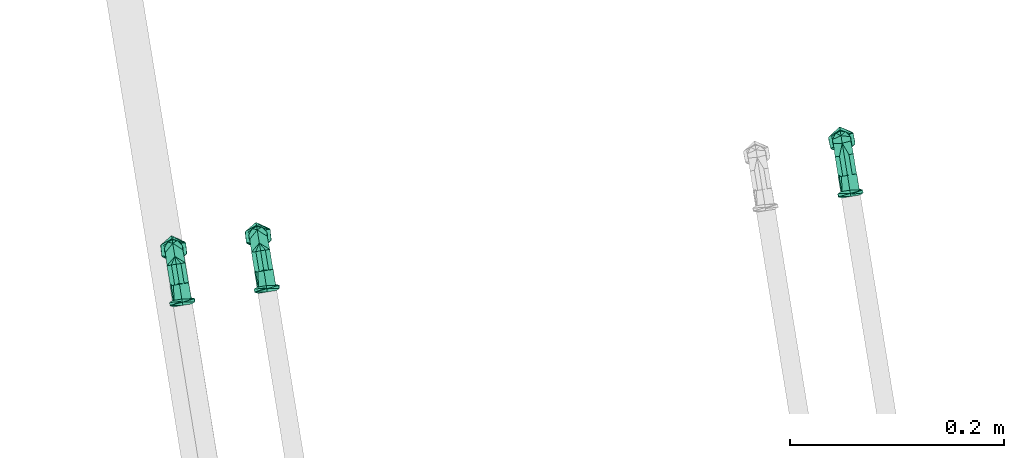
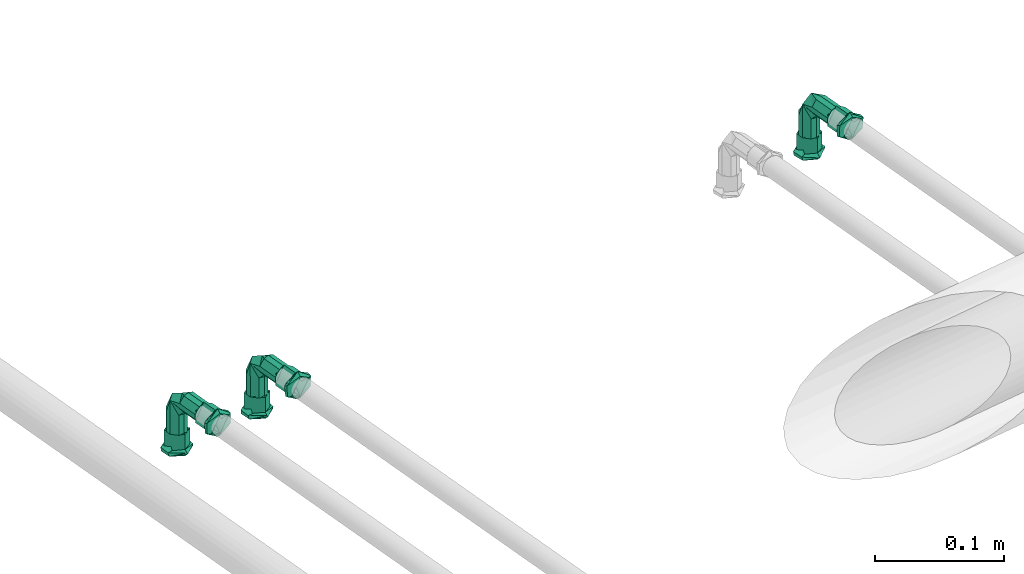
# One storey, part 47 of 56: 3 flow fittings.
"""IFC2X3 building model written with IfcOpenShell, lengths in millimetres."""

from ifc_helpers import new_model, entity, si_unit, converted_unit, derived_unit, direction, frame, origin, origin_with_axes, place, context, subcontext, project, spatial, faceted_brep, source, transform, mapped, material, material_list, type_object, element, save


model = new_model("IFC2X3")

# Units and contexts
model_context = context("Model", 3, precision=0.01, world=origin(), true_north=direction((6.12323399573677e-17, 1.0)))
plan_context = context("Plan", 3, precision=1e-05, world=origin_with_axes())
body_context = subcontext(model_context, "Body", "Model", "MODEL_VIEW")
ifc_project = project(units=[converted_unit("PLANEANGLEUNIT", "DEGREE", entity("IfcPositiveLengthMeasure", 0.0174532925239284), si_unit("PLANEANGLEUNIT", "RADIAN"), dimensions=[0, 0, 0, 0, 0, 0, 0]), si_unit("AREAUNIT", "SQUARE_METRE"), si_unit("LENGTHUNIT", "METRE", prefix="MILLI"), si_unit("MASSUNIT", "GRAM", prefix="KILO"), si_unit("POWERUNIT", "WATT"), si_unit("PRESSUREUNIT", "PASCAL", prefix="KILO"), si_unit("FORCEUNIT", "NEWTON", prefix="KILO"), si_unit("ELECTRICVOLTAGEUNIT", "VOLT"), si_unit("ELECTRICCURRENTUNIT", "AMPERE"), si_unit("THERMODYNAMICTEMPERATUREUNIT", "DEGREE_CELSIUS"), si_unit("TIMEUNIT", "SECOND"), si_unit("VOLUMEUNIT", "CUBIC_METRE"), derived_unit("LINEARVELOCITYUNIT", [(si_unit("LENGTHUNIT", "METRE"), 1), (si_unit("TIMEUNIT", "SECOND"), -1)]), derived_unit("VOLUMETRICFLOWRATEUNIT", [(si_unit("VOLUMEUNIT", "CUBIC_METRE"), 1), (si_unit("TIMEUNIT", "SECOND"), -1)]), derived_unit("THERMALTRANSMITTANCEUNIT", [(si_unit("POWERUNIT", "WATT"), 1), (si_unit("THERMODYNAMICTEMPERATUREUNIT", "KELVIN"), -1), (si_unit("AREAUNIT", "SQUARE_METRE"), -1)]), derived_unit("SOUNDPRESSUREUNIT", [(si_unit("PRESSUREUNIT", "PASCAL"), 1)])], contexts=[model_context, plan_context])

# Site, building, storey
site_placement = place(None, frame((-3.09682673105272e-06, 1.93776733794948e-05, 0.0), z_axis=(0.0, 0.0, 1.0), x_axis=(-0.160806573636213, 0.986985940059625, 0.0)))
site = spatial("IfcSite", under=ifc_project, at=site_placement, Name="Default", CompositionType="ELEMENT")
building_placement = place(site_placement, frame((0.0, 0.0, 0.0), z_axis=(0.0, 0.0, 1.0), x_axis=(1.0, -2.77555756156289e-17, 0.0)))
building = spatial("IfcBuilding", under=site, at=building_placement, Name="Bygning (endres i Project Information)", CompositionType="ELEMENT")
storey_placement = place(building_placement, frame((0.0, 0.0, 51360.0000000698), z_axis=(0.0, 0.0, 1.0), x_axis=(1.0, -2.77555756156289e-17, 0.0)))
storey = spatial("IfcBuildingStorey", under=building, at=storey_placement, Name="H01-Nivå D+0,36", CompositionType="ELEMENT", Elevation=51360.0000000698)

# Flow fittings
ifc_material_1 = material(Name="Geberit_Plastic_Red")
ifc_material_2 = material(Name="Geberit_Mapress_C-Steel")
ifc_material_list = material_list([ifc_material_1, ifc_material_2])
pipe_fitting_type_1 = type_object("IfcPipeFittingType", Name="PRO_103184:DN10-100 / d12-108 - OD", PredefinedType="BEND", material=ifc_material_list)
shared_shape_1 = source(origin(), body_context, "Body", "Brep", [
    faceted_brep([(-10.2000000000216, 47.0, 0.0), (-5.10000000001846, 53.0, -8.83345911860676), (-10.2000000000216, 53.0, 0.0), (-2.55000000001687, 47.0, -4.41672955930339), (5.09999999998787, 47.0, -8.83345911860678), (10.1999999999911, 47.0, 0.0), (10.1999999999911, 53.0, 0.0), (2.5499999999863, 53.0, -4.41672955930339), (5.09999999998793, 53.0, 8.83345911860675), (2.54999999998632, 47.0, 4.41672955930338), (-5.10000000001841, 47.0, 8.8334591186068), (-2.55000000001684, 53.0, 4.4167295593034), (-3.97333160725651, 51.6187415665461, -12.0896101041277), (-12.2979341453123, 50.9020658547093, 0.0), (6.17107195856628, 51.3356676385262, -11.312540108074), (5.11103080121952, 48.4277850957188, -11.6862297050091), (-5.17175491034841, 48.7468828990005, -11.8460073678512), (-11.7000000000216, 48.5, 0.0), (-13.2000000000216, 50.0, 0.0), (13.1999999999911, 50.0, 0.0), (11.6999999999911, 48.5, 0.0), (12.2979341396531, 50.9020658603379, 0.0), (3.97333159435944, 51.6187415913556, 12.0896100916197), (5.17175492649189, 48.7468829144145, 11.8460073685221), (-6.17107176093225, 51.3356676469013, 11.3125402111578), (-5.11103069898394, 48.4277850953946, 11.6862297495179)], [[[0, 1, 2]], [[1, 0, 3, 4]], [[5, 6, 4]], [[4, 6, 7, 1]], [[5, 8, 6]], [[8, 5, 9, 10]], [[0, 2, 10]], [[10, 2, 11, 8]], [[2, 12, 13]], [[12, 7, 14]], [[4, 15, 5]], [[16, 0, 17, 18]], [[15, 3, 16]], [[15, 14, 19]], [[19, 20, 5, 15]], [[12, 2, 1]], [[16, 18, 13]], [[15, 16, 12]], [[14, 6, 21, 19]], [[3, 0, 16]], [[15, 12, 14]], [[7, 6, 14]], [[3, 15, 4]], [[13, 12, 16]], [[7, 12, 1]], [[6, 22, 21]], [[9, 5, 23]], [[22, 11, 24]], [[23, 5, 20, 19]], [[25, 9, 23]], [[25, 24, 18]], [[18, 17, 0, 25]], [[25, 23, 22]], [[23, 19, 21]], [[25, 22, 24]], [[24, 2, 13, 18]], [[22, 6, 8]], [[10, 25, 0]], [[11, 2, 24]], [[9, 25, 10]], [[21, 22, 23]], [[11, 22, 8]]]),
    faceted_brep([(-9.0, 32.0, 0.0), (-4.5000000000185, 53.0, -7.79422863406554), (-9.0, 53.0, 0.0), (-2.25000000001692, 32.0, -3.89711431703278), (4.49999999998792, 32.0, -7.79422863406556), (9.0, 32.0, 0.0), (9.0, 53.0, 0.0), (4.499999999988, 53.0, 7.79422863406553), (2.24999999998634, 32.0, 3.89711431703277), (-4.50000000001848, 32.0, 7.79422863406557), (10.1999999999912, 53.0, 0.0), (-5.1000000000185, 53.0, -8.83345911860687), (5.09999999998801, 53.0, 8.83345911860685), (-10.2000000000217, 53.0, 0.0), (-5.10000000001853, 33.0, -8.83345911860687), (-10.2000000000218, 33.0, 0.0), (10.1999999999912, 33.0, 0.0), (2.54999999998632, 33.0, -4.41672955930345), (5.09999999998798, 33.0, 8.83345911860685), (-2.55000000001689, 33.0, 4.41672955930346)], [[[0, 1, 2]], [[1, 0, 3, 4]], [[5, 6, 4]], [[1, 4, 6]], [[5, 7, 6]], [[7, 5, 8, 9]], [[0, 2, 9]], [[7, 9, 2]], [[1, 6, 10]], [[11, 1, 10]], [[1, 11, 2]], [[6, 12, 10]], [[7, 12, 6]], [[2, 13, 7]], [[12, 7, 13]], [[13, 2, 11]], [[13, 11, 14, 15]], [[10, 16, 17, 14, 11]], [[10, 12, 18, 16]], [[13, 15, 19, 18, 12]], [[14, 3, 15]], [[3, 0, 15]], [[5, 4, 17]], [[3, 14, 4]], [[4, 14, 17]], [[16, 5, 17]], [[18, 8, 16]], [[8, 5, 16]], [[0, 9, 19]], [[8, 18, 9]], [[9, 18, 19]], [[15, 0, 19]]]),
    faceted_brep([(-47.0, -10.2000000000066, 0.0), (-53.0, -5.10000000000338, -8.83345911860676), (-53.0, -10.2000000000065, 0.0), (-47.0, -2.55000000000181, -4.41672955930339), (-47.0, 5.10000000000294, -8.83345911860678), (-47.0, 10.2000000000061, 0.0), (-53.0, 10.2000000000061, 0.0), (-53.0, 2.55000000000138, -4.41672955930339), (-53.0, 5.10000000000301, 8.83345911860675), (-47.0, 2.55000000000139, 4.41672955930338), (-47.0, -5.10000000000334, 8.8334591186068), (-53.0, -2.55000000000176, 4.4167295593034), (-51.6187415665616, -3.97333160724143, -12.0896101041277), (-50.9020658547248, -12.2979341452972, 0.0), (-51.3356676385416, 6.17107195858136, -11.312540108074), (-48.4277850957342, 5.11103080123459, -11.6862297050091), (-48.746882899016, -5.17175491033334, -11.8460073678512), (-48.5000000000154, -11.7000000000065, 0.0), (-50.0, -13.2000000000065, 0.0), (-50.0, 13.2000000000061, 0.0), (-48.5000000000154, 11.7000000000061, 0.0), (-50.9020658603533, 12.2979341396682, 0.0), (-51.618741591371, 3.97333159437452, 12.0896100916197), (-48.7468829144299, 5.17175492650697, 11.8460073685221), (-51.3356676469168, -6.17107176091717, 11.3125402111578), (-48.4277850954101, -5.11103069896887, 11.6862297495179)], [[[0, 1, 2]], [[1, 0, 3, 4]], [[5, 6, 4]], [[4, 6, 7, 1]], [[5, 8, 6]], [[8, 5, 9, 10]], [[0, 2, 10]], [[10, 2, 11, 8]], [[2, 12, 13]], [[12, 7, 14]], [[4, 15, 5]], [[16, 0, 17, 18]], [[15, 3, 16]], [[15, 14, 19]], [[19, 20, 5, 15]], [[12, 2, 1]], [[16, 18, 13]], [[15, 16, 12]], [[14, 6, 21, 19]], [[3, 0, 16]], [[15, 12, 14]], [[7, 6, 14]], [[3, 15, 4]], [[13, 12, 16]], [[7, 12, 1]], [[6, 22, 21]], [[9, 5, 23]], [[22, 11, 24]], [[23, 5, 20, 19]], [[25, 9, 23]], [[25, 24, 18]], [[18, 17, 0, 25]], [[25, 23, 22]], [[23, 19, 21]], [[25, 22, 24]], [[24, 2, 13, 18]], [[22, 6, 8]], [[10, 25, 0]], [[11, 2, 24]], [[9, 25, 10]], [[21, 22, 23]], [[11, 22, 8]]]),
    faceted_brep([(-32.0, -9.0, 0.0), (-53.0, -4.50000000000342, -7.79422863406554), (-53.0, -9.0, 0.0), (-32.0, -2.25000000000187, -3.89711431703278), (-32.0, 4.50000000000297, -7.79422863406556), (-32.0, 9.0, 0.0), (-53.0, 9.0, 0.0), (-53.0, 4.50000000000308, 7.79422863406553), (-32.0, 2.25000000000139, 3.89711431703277), (-32.0, -4.50000000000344, 7.79422863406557), (-53.0, 10.2000000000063, 0.0), (-53.0, -5.10000000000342, -8.83345911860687), (-53.0, 5.10000000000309, 8.83345911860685), (-53.0, -10.2000000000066, 0.0), (-33.0, -5.10000000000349, -8.83345911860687), (-33.0, -10.2000000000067, 0.0), (-33.0, 10.2000000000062, 0.0), (-33.0, 2.55000000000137, -4.41672955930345), (-33.0, 5.10000000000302, 8.83345911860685), (-33.0, -2.55000000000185, 4.41672955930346)], [[[0, 1, 2]], [[1, 0, 3, 4]], [[5, 6, 4]], [[1, 4, 6]], [[5, 7, 6]], [[7, 5, 8, 9]], [[0, 2, 9]], [[7, 9, 2]], [[1, 6, 10]], [[11, 1, 10]], [[1, 11, 2]], [[6, 12, 10]], [[7, 12, 6]], [[2, 13, 7]], [[12, 7, 13]], [[13, 2, 11]], [[13, 11, 14, 15]], [[10, 16, 17, 14, 11]], [[10, 12, 18, 16]], [[13, 15, 19, 18, 12]], [[14, 3, 15]], [[3, 0, 15]], [[5, 4, 17]], [[3, 14, 4]], [[4, 14, 17]], [[16, 5, 17]], [[18, 8, 16]], [[8, 5, 16]], [[0, 9, 19]], [[8, 18, 9]], [[9, 18, 19]], [[15, 0, 19]]]),
    faceted_brep([(-33.0, -9.0, 0.0), (-33.0, -7.79422863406, 4.49999999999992), (-33.0, -2.32937140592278, 8.69333243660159), (-33.0, 2.32937140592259, 8.69333243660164), (-33.0, 7.79422863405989, 4.50000000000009), (-33.0, 9.0, 0.0), (-33.0, 7.79422863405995, -4.5), (-33.0, 2.3293714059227, -8.69333243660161), (-33.0, -2.32937140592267, -8.69333243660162), (-33.0, -7.79422863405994, -4.50000000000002), (-14.0, -9.0, 0.0), (-14.0, -7.79422863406, 4.49999999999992), (-14.0, -2.32937140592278, 8.69333243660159), (-14.0, 2.32937140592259, 8.69333243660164), (2.32937140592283, 33.0, 8.69333243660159), (-2.32937140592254, 33.0, 8.69333243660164), (-2.32937140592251, 14.0, 8.69333243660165), (2.32937140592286, 14.0, 8.69333243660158), (-14.0, 7.79422863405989, 4.50000000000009), (-14.0, 9.0, 0.0), (-14.0, 7.79422863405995, -4.5), (-14.0, 2.3293714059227, -8.69333243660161), (-14.0, -2.32937140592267, -8.69333243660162), (-2.32937140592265, 33.0, -8.69333243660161), (2.32937140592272, 33.0, -8.69333243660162), (2.32937140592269, 14.0, -8.69333243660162), (-2.32937140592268, 14.0, -8.69333243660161), (-14.0, -7.79422863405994, -4.50000000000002), (-6.55705968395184, -4.70281640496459, 0.0), (-1.6301655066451, 1.63016464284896, 8.29426552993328), (-10.4644660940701, 10.4644660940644, 0.0), (-7.79422863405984, 14.0, 4.50000000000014), (5.91858428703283, 2.49999999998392, 0.0), (9.0, 14.0, 0.0), (7.79422863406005, 14.0, 4.49999999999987), (-9.0, 14.0, 0.0), (-1.63016501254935, 1.63016417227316, -8.29426524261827), (-7.79422863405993, 14.0, -4.49999999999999), (7.79422863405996, 14.0, -4.50000000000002), (-7.7942286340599, 33.0, -4.5), (-9.0, 33.0, 0.0), (-7.79422863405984, 33.0, 4.50000000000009), (7.79422863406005, 33.0, 4.49999999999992), (9.0, 33.0, 0.0), (7.79422863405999, 33.0, -4.50000000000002)], [[[0, 1, 2, 3, 4, 5, 6, 7, 8, 9]], [[0, 10, 11, 1]], [[1, 11, 12, 2]], [[12, 13, 3, 2]], [[14, 15, 16, 17]], [[3, 13, 18, 4]], [[4, 18, 19, 5]], [[5, 19, 20, 6]], [[6, 20, 21, 7]], [[21, 22, 8, 7]], [[23, 24, 25, 26]], [[8, 22, 27, 9]], [[9, 27, 10, 0]], [[12, 11, 28]], [[13, 12, 29]], [[11, 10, 28]], [[30, 18, 31]], [[30, 19, 18]], [[18, 13, 29]], [[32, 17, 29]], [[32, 29, 28]], [[32, 33, 34]], [[28, 29, 12]], [[32, 34, 17]], [[30, 31, 35]], [[29, 31, 18]], [[29, 16, 31]], [[16, 29, 17]], [[20, 19, 30]], [[25, 32, 36]], [[37, 36, 20]], [[22, 36, 28]], [[20, 36, 21]], [[27, 28, 10]], [[20, 30, 37]], [[26, 36, 37]], [[28, 36, 32]], [[22, 28, 27]], [[25, 36, 26]], [[32, 25, 38]], [[21, 36, 22]], [[38, 33, 32]], [[37, 30, 35]], [[23, 39, 40, 41, 15, 14, 42, 43, 44, 24]], [[33, 43, 42, 34]], [[34, 42, 14, 17]], [[16, 15, 41, 31]], [[31, 41, 40, 35]], [[35, 40, 39, 37]], [[37, 39, 23, 26]], [[25, 24, 44, 38]], [[38, 44, 43, 33]]]),
])
flow_fitting_placement = place(storey_placement, frame((1012400.05007827, -386975.112691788, 3299.99999997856), z_axis=(-2.77555756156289e-17, -1.0, 0.0), x_axis=(0.0, 0.0, 1.0)))
element("IfcFlowFitting", 1, at=flow_fitting_placement, inside=storey, type_object=pipe_fitting_type_1, material=ifc_material_list, Name="PRO_103184:DN10-100 / d12-108 - OD", ObjectType="PRO_103184:DN10-100 / d12-108 - OD", context=body_context, shape_type="MappedRepresentation", body=[
    mapped(shared_shape_1, transform((0.0, 0.0, 0.0), scale=1.0)),
])
pipe_fitting_type_2 = type_object("IfcPipeFittingType", Name="PRO_103184:DN10-100 / d12-108 - OD", PredefinedType="BEND", material=ifc_material_list)
shared_shape_2 = source(origin(), body_context, "Body", "Brep", [
    faceted_brep([(-10.2000000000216, -53.0, 0.0), (-5.10000000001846, -47.0, -8.83345911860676), (-10.2000000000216, -47.0, 0.0), (-2.55000000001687, -53.0, -4.41672955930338), (5.09999999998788, -53.0, -8.83345911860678), (10.1999999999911, -53.0, 0.0), (10.1999999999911, -47.0, 0.0), (2.5499999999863, -47.0, -4.41672955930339), (5.09999999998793, -47.0, 8.83345911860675), (2.54999999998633, -53.0, 4.41672955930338), (-5.10000000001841, -53.0, 8.8334591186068), (-2.55000000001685, -47.0, 4.4167295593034), (-5.17175504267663, -51.2531170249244, -11.8460073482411), (-11.7000000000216, -51.5, 0.0), (-13.2000000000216, -50.0, 0.0), (5.11103073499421, -51.5722147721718, -11.6862298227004), (11.6999999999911, -51.5, 0.0), (13.1999999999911, -50.0, 0.0), (-12.2979341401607, -49.0979341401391, 0.0), (6.17107192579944, -48.6643322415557, -11.3125400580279), (-3.97333148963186, -48.3812583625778, -12.0896100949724), (12.2979341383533, -49.0979341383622, 0.0), (5.17175486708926, -51.2531170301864, 11.8460074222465), (-5.11103073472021, -51.5722148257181, 11.6862297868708), (3.97333137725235, -48.3812583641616, 12.089610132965), (-6.17107195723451, -48.6643322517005, 11.3125400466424)], [[[0, 1, 2]], [[1, 0, 3, 4]], [[4, 5, 6]], [[4, 6, 7, 1]], [[5, 8, 6]], [[8, 5, 9, 10]], [[10, 0, 2]], [[10, 2, 11, 8]], [[12, 0, 13, 14]], [[12, 15, 3]], [[16, 5, 15, 17]], [[18, 12, 14]], [[3, 0, 12]], [[7, 6, 19]], [[12, 18, 20]], [[19, 17, 15]], [[20, 18, 2]], [[20, 15, 12]], [[19, 6, 21, 17]], [[3, 15, 4]], [[19, 15, 20]], [[1, 7, 20]], [[5, 4, 15]], [[19, 20, 7]], [[2, 1, 20]], [[22, 5, 16, 17]], [[22, 23, 9]], [[13, 0, 23, 14]], [[21, 22, 17]], [[9, 5, 22]], [[22, 21, 24]], [[24, 23, 22]], [[25, 23, 24]], [[24, 21, 6]], [[25, 14, 23]], [[25, 2, 18, 14]], [[10, 9, 23]], [[11, 2, 25]], [[8, 11, 24]], [[0, 10, 23]], [[25, 24, 11]], [[6, 8, 24]]]),
    faceted_brep([(-9.0, -53.0, 0.0), (-4.50000000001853, -32.0, -7.79422863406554), (-9.0, -32.0, 0.0), (4.49999999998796, -53.0, -7.79422863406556), (9.0, -53.0, 0.0), (9.0, -32.0, 0.0), (2.24999999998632, -32.0, -3.89711431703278), (4.49999999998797, -32.0, 7.79422863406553), (-4.50000000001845, -53.0, 7.79422863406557), (-2.25000000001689, -32.0, 3.89711431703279), (10.1999999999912, -53.0, 0.0), (5.09999999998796, -53.0, -8.83345911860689), (-5.10000000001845, -53.0, 8.8334591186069), (-10.2000000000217, -53.0, 0.0), (-10.2000000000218, -33.0, 0.0), (-2.55000000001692, -33.0, -4.41672955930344), (5.09999999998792, -33.0, -8.83345911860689), (10.1999999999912, -33.0, 0.0), (2.54999999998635, -33.0, 4.41672955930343), (-5.10000000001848, -33.0, 8.8334591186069)], [[[0, 1, 2]], [[1, 0, 3]], [[3, 4, 5]], [[3, 5, 6, 1]], [[4, 7, 5]], [[7, 4, 8]], [[8, 0, 2]], [[8, 2, 9, 7]], [[10, 4, 11]], [[10, 8, 4]], [[8, 10, 12]], [[12, 0, 8]], [[12, 13, 0]], [[3, 0, 13]], [[3, 13, 11]], [[11, 4, 3]], [[14, 15, 16, 11, 13]], [[17, 10, 11, 16]], [[17, 18, 19, 12, 10]], [[14, 13, 12, 19]], [[15, 14, 1]], [[2, 1, 14]], [[6, 5, 16]], [[1, 6, 15]], [[17, 16, 5]], [[6, 16, 15]], [[18, 17, 7]], [[5, 7, 17]], [[9, 2, 19]], [[7, 9, 18]], [[14, 19, 2]], [[9, 19, 18]]]),
    faceted_brep([(-53.0, 10.2000000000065, 0.0), (-47.0, 5.1000000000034, -8.83345911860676), (-47.0, 10.2000000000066, 0.0), (-53.0, 2.55000000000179, -4.41672955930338), (-53.0, -5.10000000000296, -8.83345911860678), (-53.0, -10.2000000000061, 0.0), (-47.0, -10.2000000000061, 0.0), (-47.0, -2.55000000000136, -4.41672955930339), (-47.0, -5.100000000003, 8.83345911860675), (-53.0, -2.55000000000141, 4.41672955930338), (-53.0, 5.10000000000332, 8.8334591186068), (-47.0, 2.55000000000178, 4.4167295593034), (-51.2531170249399, 5.17175504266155, -11.8460073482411), (-51.5000000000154, 11.7000000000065, 0.0), (-50.0, 13.2000000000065, 0.0), (-51.5722147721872, -5.11103073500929, -11.6862298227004), (-51.5000000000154, -11.7000000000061, 0.0), (-50.0, -13.2000000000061, 0.0), (-49.0979341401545, 12.2979341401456, 0.0), (-48.6643322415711, -6.17107192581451, -11.3125400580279), (-48.3812583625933, 3.97333148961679, -12.0896100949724), (-49.0979341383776, -12.2979341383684, 0.0), (-51.2531170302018, -5.17175486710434, 11.8460074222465), (-51.5722148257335, 5.11103073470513, 11.6862297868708), (-48.381258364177, -3.97333137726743, 12.089610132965), (-48.6643322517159, 6.17107195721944, 11.3125400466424)], [[[0, 1, 2]], [[1, 0, 3, 4]], [[4, 5, 6]], [[4, 6, 7, 1]], [[5, 8, 6]], [[8, 5, 9, 10]], [[10, 0, 2]], [[10, 2, 11, 8]], [[12, 0, 13, 14]], [[12, 15, 3]], [[16, 5, 15, 17]], [[18, 12, 14]], [[3, 0, 12]], [[7, 6, 19]], [[12, 18, 20]], [[19, 17, 15]], [[20, 18, 2]], [[20, 15, 12]], [[19, 6, 21, 17]], [[3, 15, 4]], [[19, 15, 20]], [[1, 7, 20]], [[5, 4, 15]], [[19, 20, 7]], [[2, 1, 20]], [[22, 5, 16, 17]], [[22, 23, 9]], [[13, 0, 23, 14]], [[21, 22, 17]], [[9, 5, 22]], [[22, 21, 24]], [[24, 23, 22]], [[25, 23, 24]], [[24, 21, 6]], [[25, 14, 23]], [[25, 2, 18, 14]], [[10, 9, 23]], [[11, 2, 25]], [[8, 11, 24]], [[0, 10, 23]], [[25, 24, 11]], [[6, 8, 24]]]),
    faceted_brep([(-53.0, 9.0, 0.0), (-32.0, 4.50000000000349, -7.79422863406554), (-32.0, 9.0, 0.0), (-53.0, -4.50000000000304, -7.79422863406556), (-53.0, -9.0, 0.0), (-32.0, -9.0, 0.0), (-32.0, -2.25000000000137, -3.89711431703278), (-32.0, -4.50000000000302, 7.79422863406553), (-53.0, 4.50000000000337, 7.79422863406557), (-32.0, 2.25000000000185, 3.89711431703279), (-53.0, -10.2000000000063, 0.0), (-53.0, -5.10000000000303, -8.83345911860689), (-53.0, 5.10000000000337, 8.8334591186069), (-53.0, 10.2000000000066, 0.0), (-33.0, 10.2000000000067, 0.0), (-33.0, 2.55000000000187, -4.41672955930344), (-33.0, -5.10000000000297, -8.83345911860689), (-33.0, -10.2000000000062, 0.0), (-33.0, -2.55000000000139, 4.41672955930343), (-33.0, 5.10000000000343, 8.8334591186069)], [[[0, 1, 2]], [[1, 0, 3]], [[3, 4, 5]], [[3, 5, 6, 1]], [[4, 7, 5]], [[7, 4, 8]], [[8, 0, 2]], [[8, 2, 9, 7]], [[10, 4, 11]], [[10, 8, 4]], [[8, 10, 12]], [[12, 0, 8]], [[12, 13, 0]], [[3, 0, 13]], [[3, 13, 11]], [[11, 4, 3]], [[14, 15, 16, 11, 13]], [[17, 10, 11, 16]], [[17, 18, 19, 12, 10]], [[14, 13, 12, 19]], [[15, 14, 1]], [[2, 1, 14]], [[6, 5, 16]], [[1, 6, 15]], [[17, 16, 5]], [[6, 16, 15]], [[18, 17, 7]], [[5, 7, 17]], [[9, 2, 19]], [[7, 9, 18]], [[14, 19, 2]], [[9, 19, 18]]]),
    faceted_brep([(-33.0, -2.3293714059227, -8.69333243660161), (-33.0, -7.79422863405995, -4.5), (-33.0, -9.0, 0.0), (-33.0, -7.79422863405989, 4.50000000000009), (-33.0, -2.32937140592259, 8.69333243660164), (-33.0, 2.32937140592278, 8.69333243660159), (-33.0, 7.79422863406, 4.49999999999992), (-33.0, 9.0, 0.0), (-33.0, 7.79422863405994, -4.50000000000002), (-33.0, 2.32937140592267, -8.69333243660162), (-14.0, 7.79422863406, 4.49999999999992), (-14.0, 9.0, 0.0), (-14.0, 2.32937140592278, 8.69333243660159), (-14.0, -2.32937140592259, 8.69333243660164), (2.32937140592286, -14.0, 8.69333243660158), (-2.32937140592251, -14.0, 8.69333243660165), (-2.32937140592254, -33.0, 8.69333243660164), (2.32937140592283, -33.0, 8.69333243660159), (-14.0, -7.79422863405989, 4.50000000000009), (-14.0, -9.0, 0.0), (-14.0, -7.79422863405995, -4.5), (-14.0, -2.3293714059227, -8.69333243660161), (-14.0, 2.32937140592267, -8.69333243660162), (-2.32937140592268, -14.0, -8.69333243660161), (2.32937140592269, -14.0, -8.69333243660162), (2.32937140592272, -33.0, -8.69333243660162), (-2.32937140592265, -33.0, -8.69333243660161), (-14.0, 7.79422863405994, -4.50000000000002), (-2.50000000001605, 5.91858428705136, 0.0), (-1.6301655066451, -1.63016464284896, 8.29426552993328), (4.70281626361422, -6.55705943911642, 0.0), (-10.4644660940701, -10.4644660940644, 0.0), (7.79422863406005, -14.0, 4.49999999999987), (-7.79422863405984, -14.0, 4.50000000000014), (-9.0, -14.0, 0.0), (9.0, -14.0, 0.0), (-1.63016501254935, -1.63016417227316, -8.29426524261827), (-7.79422863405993, -14.0, -4.49999999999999), (7.79422863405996, -14.0, -4.50000000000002), (9.0, -33.0, 0.0), (7.79422863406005, -33.0, 4.49999999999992), (-7.79422863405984, -33.0, 4.50000000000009), (-9.0, -33.0, 0.0), (-7.7942286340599, -33.0, -4.5), (7.79422863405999, -33.0, -4.50000000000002)], [[[0, 1, 2, 3, 4, 5, 6, 7, 8, 9]], [[10, 11, 7, 6]], [[12, 10, 6, 5]], [[5, 4, 13, 12]], [[14, 15, 16, 17]], [[18, 13, 4, 3]], [[19, 18, 3, 2]], [[20, 19, 2, 1]], [[21, 20, 1, 0]], [[0, 9, 22, 21]], [[23, 24, 25, 26]], [[27, 22, 9, 8]], [[11, 27, 8, 7]], [[10, 28, 11]], [[12, 28, 10]], [[28, 29, 30]], [[29, 12, 13]], [[18, 19, 31]], [[18, 29, 13]], [[32, 30, 14]], [[14, 29, 15]], [[29, 28, 12]], [[33, 15, 29]], [[29, 14, 30]], [[33, 31, 34]], [[18, 31, 33]], [[33, 29, 18]], [[35, 30, 32]], [[24, 36, 30]], [[36, 37, 20]], [[36, 20, 21]], [[28, 27, 11]], [[27, 28, 22]], [[36, 21, 22]], [[31, 19, 20]], [[37, 34, 31]], [[36, 22, 28]], [[37, 36, 23]], [[38, 24, 30]], [[30, 35, 38]], [[36, 28, 30]], [[23, 36, 24]], [[31, 20, 37]], [[39, 40, 17, 16, 41, 42, 43, 26, 25, 44]], [[40, 39, 35, 32]], [[17, 40, 32, 14]], [[41, 16, 15, 33]], [[42, 41, 33, 34]], [[43, 42, 34, 37]], [[26, 43, 37, 23]], [[44, 25, 24, 38]], [[39, 44, 38, 35]]]),
])
for number, where, z_axis, x_axis in (
    (2, (1012400.03048285, -386341.6268451, 3299.99999997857), (2.77555756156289e-17, 1.0, 0.0), (0.0, 0.0, 1.0)),
    (3, (1012399.71582841, -386421.651949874, 3299.99999997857), (2.77555756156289e-17, 1.0, 0.0), (0.0, 0.0, 1.0)),
):
    element("IfcFlowFitting", number, at=place(storey_placement, frame(where, z_axis=z_axis, x_axis=x_axis)), inside=storey, type_object=pipe_fitting_type_2, material=ifc_material_list, Name="PRO_103184:DN10-100 / d12-108 - OD", ObjectType="PRO_103184:DN10-100 / d12-108 - OD", context=body_context, shape_type="MappedRepresentation", body=[
        mapped(shared_shape_2, transform((0.0, 0.0, 0.0), scale=1.0)),
    ])

save(model, "model.ifc")
